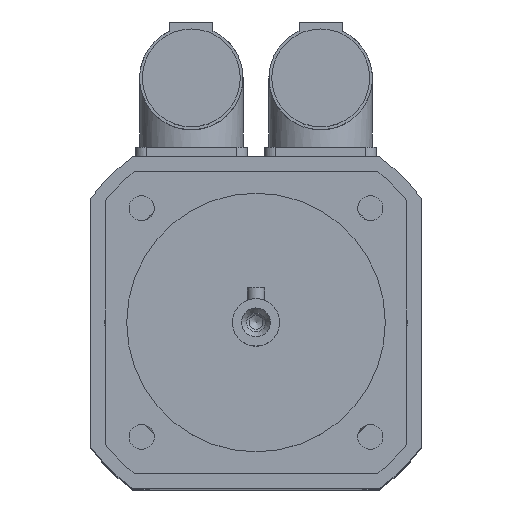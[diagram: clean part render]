
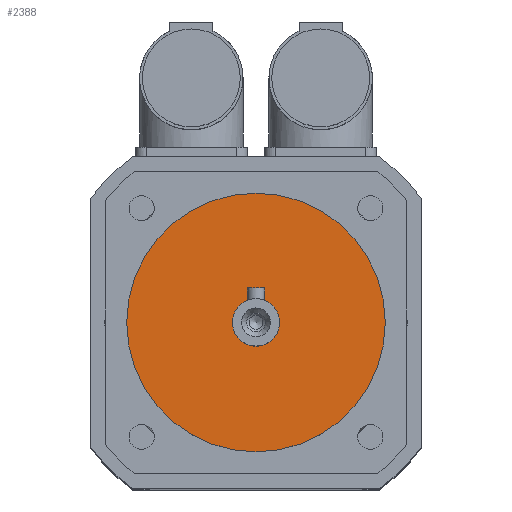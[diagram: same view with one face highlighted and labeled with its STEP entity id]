
A CAD part, top view. The second image highlights one B-rep face of the part: STEP entity #2388.
In plain terms, the highlighted planar face has unit normal (0, 0, 1).
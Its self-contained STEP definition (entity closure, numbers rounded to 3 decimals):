
#484=PLANE('',#2572);
#601=FACE_BOUND('',#819,.T.);
#665=FACE_OUTER_BOUND('',#818,.T.);
#818=EDGE_LOOP('',(#1867));
#819=EDGE_LOOP('',(#1868));
#965=CIRCLE('',#2571,5.5);
#966=CIRCLE('',#2573,30.);
#1130=VERTEX_POINT('',#3794);
#1131=VERTEX_POINT('',#3797);
#1405=EDGE_CURVE('',#1130,#1130,#965,.T.);
#1406=EDGE_CURVE('',#1131,#1131,#966,.T.);
#1867=ORIENTED_EDGE('',*,*,#1406,.F.);
#1868=ORIENTED_EDGE('',*,*,#1405,.T.);
#2388=ADVANCED_FACE('',(#665,#601),#484,.T.);
#2571=AXIS2_PLACEMENT_3D('',#3795,#2996,#2997);
#2572=AXIS2_PLACEMENT_3D('',#3796,#2998,#2999);
#2573=AXIS2_PLACEMENT_3D('',#3798,#3000,#3001);
#2996=DIRECTION('center_axis',(0.,0.,-1.));
#2997=DIRECTION('ref_axis',(1.,0.,0.));
#2998=DIRECTION('center_axis',(0.,0.,1.));
#2999=DIRECTION('ref_axis',(1.,0.,0.));
#3000=DIRECTION('center_axis',(0.,0.,-1.));
#3001=DIRECTION('ref_axis',(1.,0.,0.));
#3794=CARTESIAN_POINT('',(0.,5.5,186.));
#3795=CARTESIAN_POINT('Origin',(0.,0.,186.));
#3796=CARTESIAN_POINT('Origin',(0.,30.,186.));
#3797=CARTESIAN_POINT('',(0.,30.,186.));
#3798=CARTESIAN_POINT('Origin',(0.,0.,186.));
